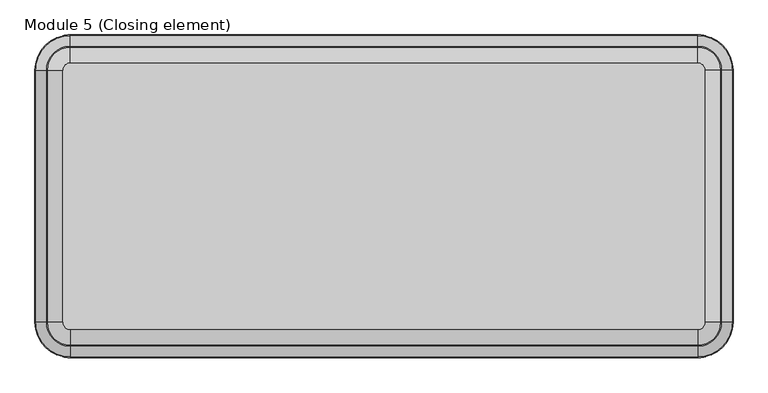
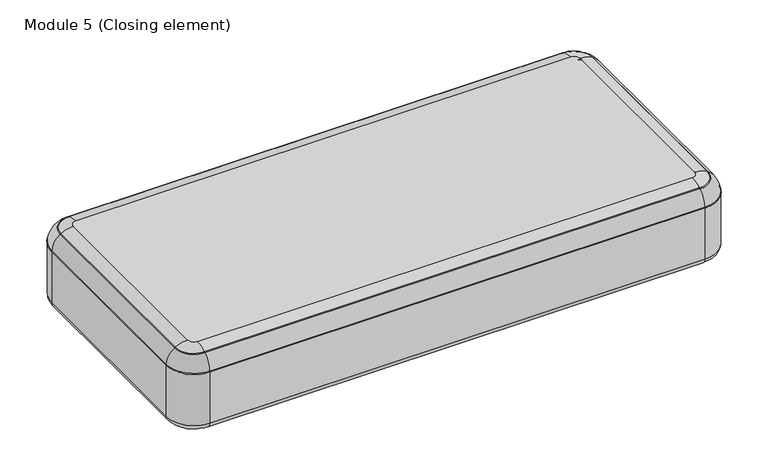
"""IFC4 building model written with IfcOpenShell, lengths in millimetres: furniture geometry, Module 5 (Closing element) : 1800х930х710мм."""

from ifc_helpers import new_model, si_unit, point, frame, origin, place, context, project, spatial, polyline, circle_curve, ellipse_curve, trimmed, source, transform, mapped, element, save
from ifc_brep_helpers import plane_surface, cylinder_surface, revolved_surface, advanced_brep


def module_5_closing_element_c7924a40(model_context):
    return source(origin(), model_context, "Body", "AdvancedBrep", [
        advanced_brep(
        [(90.0, -930.0, 190.0), (0.0, -840.0, 190.0), (20.0, -840.0, 170.0), (90.0, -910.0, 170.0), (90.0, -930.0, 369.0816596), (0.0, -840.0, 369.0816596), (90.0, -903.0932178, 417.1277728), (26.9067822, -840.0, 417.1277728), (0.0043962, -840.0, 370.2686252), (90.0, -929.9956038, 370.2686252), (90.0, -900.2270188, 418.8499589), (29.7729812, -840.0, 418.8499589), (90.0, -860.0212696, 430.0), (69.9787304, -840.0, 430.0), (1710.0, -910.0, 170.0), (1710.0, -930.0, 190.0), (1710.0, -930.0, 369.0816596), (1710.0, -929.9956038, 370.2686252), (1710.0, -903.0932178, 417.1277728), (1710.0, -900.2270188, 418.8499589), (1710.0, -860.0212696, 430.0), (1780.0, -840.0, 170.0), (1800.0, -840.0, 190.0), (1800.0, -840.0, 369.0816596), (1799.9956038, -840.0, 370.2686252), (1773.0932178, -840.0, 417.1277728), (1770.2270188, -840.0, 418.8499589), (1730.0212696, -840.0, 430.0), (1780.0, -190.0, 170.0), (1800.0, -190.0, 190.0), (1800.0, -190.0, 369.0816596), (1799.9956038, -190.0, 370.2686252), (1773.0932178, -190.0, 417.1277728), (1770.2270188, -190.0, 418.8499589), (1730.0212696, -190.0, 430.0), (1710.0, -120.0, 170.0), (1710.0, -100.0, 190.0), (1710.0, -100.0, 369.0816596), (1710.0, -100.0043962, 370.2686252), (1710.0, -126.9067822, 417.1277728), (1710.0, -129.7729812, 418.8499589), (1710.0, -169.9787304, 430.0), (90.0, -120.0, 170.0), (90.0, -100.0, 190.0), (90.0, -100.0, 369.0816596), (90.0, -100.0043962, 370.2686252), (90.0, -126.9067822, 417.1277728), (90.0, -129.7729812, 418.8499589), (90.0, -169.9787304, 430.0), (20.0, -190.0, 170.0), (0.0, -190.0, 190.0), (0.0, -190.0, 369.0816596), (0.0043962, -190.0, 370.2686252), (26.9067822, -190.0, 417.1277728), (29.7729812, -190.0, 418.8499589), (69.9787304, -190.0, 430.0)],
        [
            (0, 1, circle_curve(frame((90.0, -840.0, 190.0), z_axis=(0.0, 0.0, -1.0), x_axis=(-1.0, 0.0, 0.0)), 90.0)),
            (1, 2, circle_curve(frame((20.0, -840.0, 190.0), z_axis=(0.0, -1.0, 0.0), x_axis=(1.0, 0.0, 0.0)), 20.0)),
            (2, 3, circle_curve(frame((90.0, -840.0, 170.0), z_axis=(0.0, 0.0, 1.0), x_axis=(-1.0, 0.0, 0.0)), 70.0)),
            (3, 0, circle_curve(frame((90.0, -910.0, 190.0), z_axis=(-1.0, 0.0, 0.0), x_axis=(0.0, 1.0, 0.0)), 20.0)),
            (0, 4),
            (4, 5, circle_curve(frame((90.0, -840.0, 369.0816596), z_axis=(0.0, 0.0, -1.0), x_axis=(-1.0, 0.0, 0.0)), 90.0)),
            (5, 1),
            (6, 7, circle_curve(frame((90.0, -840.0, 417.1277728), z_axis=(0.0, 0.0, -1.0), x_axis=(-1.0, 0.0, 0.0)), 63.0932178)),
            (7, 8, circle_curve(frame((55.482257, -840.0, 369.5701963), z_axis=(0.0, -1.0, 0.0), x_axis=(1.0, 0.0, 0.0)), 55.482257)),
            (8, 9, circle_curve(frame((90.0, -840.0, 370.2686252), z_axis=(0.0, 0.0, 1.0), x_axis=(-1.0, 0.0, 0.0)), 89.9956038)),
            (9, 6, circle_curve(frame((90.0, -874.517743, 369.5701963), z_axis=(-1.0, 0.0, 0.0), x_axis=(0.0, 1.0, 0.0)), 55.482257)),
            (6, 10),
            (10, 11, circle_curve(frame((90.0, -840.0, 418.8499589), z_axis=(0.0, 0.0, -1.0), x_axis=(-1.0, 0.0, 0.0)), 60.2270188)),
            (11, 7),
            (10, 12, circle_curve(frame((90.0, -860.0212696, 351.9363554), z_axis=(-1.0, 0.0, 0.0), x_axis=(0.0, 1.0, 0.0)), 78.0636446)),
            (12, 13, circle_curve(frame((90.0, -840.0, 430.0), z_axis=(0.0, 0.0, -1.0), x_axis=(-1.0, 0.0, 0.0)), 20.0212696)),
            (13, 11, circle_curve(frame((69.9787304, -840.0, 351.9363554), z_axis=(0.0, -1.0, 0.0), x_axis=(1.0, 0.0, 0.0)), 78.0636446)),
            (3, 14),
            (14, 15, circle_curve(frame((1710.0, -910.0, 190.0), z_axis=(-1.0, 0.0, 0.0), x_axis=(0.0, 1.0, 0.0)), 20.0)),
            (15, 0),
            (15, 16),
            (16, 4),
            (9, 17),
            (17, 18, circle_curve(frame((1710.0, -874.517743, 369.5701963), z_axis=(-1.0, 0.0, 0.0), x_axis=(0.0, 1.0, 0.0)), 55.482257)),
            (18, 6),
            (18, 19),
            (19, 10),
            (19, 20, circle_curve(frame((1710.0, -860.0212696, 351.9363554), z_axis=(-1.0, 0.0, 0.0), x_axis=(0.0, 1.0, 0.0)), 78.0636446)),
            (20, 12),
            (14, 21, circle_curve(frame((1710.0, -840.0, 170.0), z_axis=(0.0, 0.0, 1.0), x_axis=(0.0, -1.0, 0.0)), 70.0)),
            (21, 22, circle_curve(frame((1780.0, -840.0, 190.0), z_axis=(0.0, -1.0, 0.0), x_axis=(-1.0, 0.0, 0.0)), 20.0)),
            (22, 15, circle_curve(frame((1710.0, -840.0, 190.0), z_axis=(0.0, 0.0, -1.0), x_axis=(0.0, -1.0, 0.0)), 90.0)),
            (22, 23),
            (23, 16, circle_curve(frame((1710.0, -840.0, 369.0816596), z_axis=(0.0, 0.0, -1.0), x_axis=(0.0, -1.0, 0.0)), 90.0)),
            (17, 24, circle_curve(frame((1710.0, -840.0, 370.2686252), z_axis=(0.0, 0.0, 1.0), x_axis=(0.0, -1.0, 0.0)), 89.9956038)),
            (24, 25, circle_curve(frame((1744.517743, -840.0, 369.5701963), z_axis=(0.0, -1.0, 0.0), x_axis=(-1.0, 0.0, 0.0)), 55.482257)),
            (25, 18, circle_curve(frame((1710.0, -840.0, 417.1277728), z_axis=(0.0, 0.0, -1.0), x_axis=(0.0, -1.0, 0.0)), 63.0932178)),
            (25, 26),
            (26, 19, circle_curve(frame((1710.0, -840.0, 418.8499589), z_axis=(0.0, 0.0, -1.0), x_axis=(0.0, -1.0, 0.0)), 60.2270188)),
            (26, 27, circle_curve(frame((1730.0212696, -840.0, 351.9363554), z_axis=(0.0, -1.0, 0.0), x_axis=(-1.0, 0.0, 0.0)), 78.0636446)),
            (27, 20, circle_curve(frame((1710.0, -840.0, 430.0), z_axis=(0.0, 0.0, -1.0), x_axis=(0.0, -1.0, 0.0)), 20.0212696)),
            (21, 28),
            (28, 29, circle_curve(frame((1780.0, -190.0, 190.0), z_axis=(0.0, -1.0, 0.0), x_axis=(-1.0, 0.0, 0.0)), 20.0)),
            (29, 22),
            (29, 30),
            (30, 23),
            (24, 31),
            (31, 32, circle_curve(frame((1744.517743, -190.0, 369.5701963), z_axis=(0.0, -1.0, 0.0), x_axis=(-1.0, 0.0, 0.0)), 55.482257)),
            (32, 25),
            (32, 33),
            (33, 26),
            (33, 34, circle_curve(frame((1730.0212696, -190.0, 351.9363554), z_axis=(0.0, -1.0, 0.0), x_axis=(-1.0, 0.0, 0.0)), 78.0636446)),
            (34, 27),
            (28, 35, circle_curve(frame((1710.0, -190.0, 170.0), z_axis=(0.0, 0.0, 1.0), x_axis=(1.0, 0.0, 0.0)), 70.0)),
            (35, 36, circle_curve(frame((1710.0, -120.0, 190.0), z_axis=(1.0, 0.0, 0.0), x_axis=(0.0, -1.0, 0.0)), 20.0)),
            (36, 29, circle_curve(frame((1710.0, -190.0, 190.0), z_axis=(0.0, 0.0, -1.0), x_axis=(1.0, 0.0, 0.0)), 90.0)),
            (36, 37),
            (37, 30, circle_curve(frame((1710.0, -190.0, 369.0816596), z_axis=(0.0, 0.0, -1.0), x_axis=(1.0, 0.0, 0.0)), 90.0)),
            (31, 38, circle_curve(frame((1710.0, -190.0, 370.2686252), z_axis=(0.0, 0.0, 1.0), x_axis=(1.0, 0.0, 0.0)), 89.9956038)),
            (38, 39, circle_curve(frame((1710.0, -155.482257, 369.5701963), z_axis=(1.0, 0.0, 0.0), x_axis=(0.0, -1.0, 0.0)), 55.482257)),
            (39, 32, circle_curve(frame((1710.0, -190.0, 417.1277728), z_axis=(0.0, 0.0, -1.0), x_axis=(1.0, 0.0, 0.0)), 63.0932178)),
            (39, 40),
            (40, 33, circle_curve(frame((1710.0, -190.0, 418.8499589), z_axis=(0.0, 0.0, -1.0), x_axis=(1.0, 0.0, 0.0)), 60.2270188)),
            (40, 41, circle_curve(frame((1710.0, -169.9787304, 351.9363554), z_axis=(1.0, 0.0, 0.0), x_axis=(0.0, -1.0, 0.0)), 78.0636446)),
            (41, 34, circle_curve(frame((1710.0, -190.0, 430.0), z_axis=(0.0, 0.0, -1.0), x_axis=(1.0, 0.0, 0.0)), 20.0212696)),
            (35, 42),
            (42, 43, circle_curve(frame((90.0, -120.0, 190.0), z_axis=(1.0, 0.0, 0.0), x_axis=(0.0, -1.0, 0.0)), 20.0)),
            (43, 36),
            (43, 44),
            (44, 37),
            (38, 45),
            (45, 46, circle_curve(frame((90.0, -155.482257, 369.5701963), z_axis=(1.0, 0.0, 0.0), x_axis=(0.0, -1.0, 0.0)), 55.482257)),
            (46, 39),
            (46, 47),
            (47, 40),
            (47, 48, circle_curve(frame((90.0, -169.9787304, 351.9363554), z_axis=(1.0, 0.0, 0.0), x_axis=(0.0, -1.0, 0.0)), 78.0636446)),
            (48, 41),
            (42, 49, circle_curve(frame((90.0, -190.0, 170.0), z_axis=(0.0, 0.0, 1.0), x_axis=(0.0, 1.0, 0.0)), 70.0)),
            (49, 50, circle_curve(frame((20.0, -190.0, 190.0), z_axis=(0.0, 1.0, 0.0), x_axis=(1.0, 0.0, 0.0)), 20.0)),
            (50, 43, circle_curve(frame((90.0, -190.0, 190.0), z_axis=(0.0, 0.0, -1.0), x_axis=(0.0, 1.0, 0.0)), 90.0)),
            (50, 51),
            (51, 44, circle_curve(frame((90.0, -190.0, 369.0816596), z_axis=(0.0, 0.0, -1.0), x_axis=(0.0, 1.0, 0.0)), 90.0)),
            (45, 52, circle_curve(frame((90.0, -190.0, 370.2686252), z_axis=(0.0, 0.0, 1.0), x_axis=(0.0, 1.0, 0.0)), 89.9956038)),
            (52, 53, circle_curve(frame((55.482257, -190.0, 369.5701963), z_axis=(0.0, 1.0, 0.0), x_axis=(1.0, 0.0, 0.0)), 55.482257)),
            (53, 46, circle_curve(frame((90.0, -190.0, 417.1277728), z_axis=(0.0, 0.0, -1.0), x_axis=(0.0, 1.0, 0.0)), 63.0932178)),
            (53, 54),
            (54, 47, circle_curve(frame((90.0, -190.0, 418.8499589), z_axis=(0.0, 0.0, -1.0), x_axis=(0.0, 1.0, 0.0)), 60.2270188)),
            (54, 55, circle_curve(frame((69.9787304, -190.0, 351.9363554), z_axis=(0.0, 1.0, 0.0), x_axis=(1.0, 0.0, 0.0)), 78.0636446)),
            (55, 48, circle_curve(frame((90.0, -190.0, 430.0), z_axis=(0.0, 0.0, -1.0), x_axis=(0.0, 1.0, 0.0)), 20.0212696)),
            (55, 13),
            (2, 49),
            (1, 50),
            (5, 51),
            (7, 53),
            (52, 8),
            (11, 54),
            (4, 9, circle_curve(frame((90.0, -930.8026401, 369.6781233), z_axis=(-1.0, 0.0, 0.0), x_axis=(0.0, 1.0, 0.0)), 1.0)),
            (8, 5, circle_curve(frame((-0.8026401, -840.0, 369.6781233), z_axis=(0.0, -1.0, 0.0), x_axis=(1.0, 0.0, 0.0)), 1.0)),
            (16, 17, circle_curve(frame((1710.0, -930.8026401, 369.6781233), z_axis=(-1.0, 0.0, 0.0), x_axis=(0.0, 1.0, 0.0)), 1.0)),
            (23, 24, circle_curve(frame((1800.8026401, -840.0, 369.6781233), z_axis=(0.0, -1.0, 0.0), x_axis=(-1.0, 0.0, 0.0)), 1.0)),
            (30, 31, circle_curve(frame((1800.8026401, -190.0, 369.6781233), z_axis=(0.0, -1.0, 0.0), x_axis=(-1.0, 0.0, 0.0)), 1.0)),
            (37, 38, circle_curve(frame((1710.0, -99.1973599, 369.6781233), z_axis=(1.0, 0.0, 0.0), x_axis=(0.0, -1.0, 0.0)), 1.0)),
            (44, 45, circle_curve(frame((90.0, -99.1973599, 369.6781233), z_axis=(1.0, 0.0, 0.0), x_axis=(0.0, -1.0, 0.0)), 1.0)),
            (51, 52, circle_curve(frame((-0.8026401, -190.0, 369.6781233), z_axis=(0.0, 1.0, 0.0), x_axis=(1.0, 0.0, 0.0)), 1.0)),
        ],
        [
            revolved_surface(trimmed(ellipse_curve(frame((20.0, -840.0, 190.0), z_axis=(0.0, 1.0, 0.0), x_axis=(1.0, 0.0, 0.0)), 20.0, 20.0), [point((20.0, -840.0, 170.0))], [point((0.0, -840.0, 190.0))], True, "CARTESIAN"), (90.0, -840.0, 430.0), (0.0, 0.0, 1.0)),
            cylinder_surface(frame((90.0, -840.0, 430.0), z_axis=(0.0, 0.0, 1.0), x_axis=(-1.0, 0.0, 0.0)), 90.0),
            revolved_surface(trimmed(ellipse_curve(frame((55.482257, -840.0, 369.5701963), z_axis=(0.0, 1.0, 0.0), x_axis=(1.0, 0.0, 0.0)), 55.482257, 55.482257), [point((0.0043962, -840.0, 370.2686252))], [point((26.9067822, -840.0, 417.1277728))], True, "CARTESIAN"), (90.0, -840.0, 430.0), (0.0, 0.0, 1.0)),
            revolved_surface(polyline([(26.9067822, -840.0, 417.1277728), (29.7729812, -840.0, 418.8499589)]), (90.0, -840.0, 430.0), (0.0, 0.0, 1.0)),
            revolved_surface(trimmed(ellipse_curve(frame((69.9787304, -840.0, 351.9363554), z_axis=(0.0, 1.0, 0.0), x_axis=(1.0, 0.0, 0.0)), 78.0636446, 78.0636446), [point((29.7729812, -840.0, 418.8499589))], [point((69.9787304, -840.0, 430.0))], True, "CARTESIAN"), (90.0, -840.0, 430.0), (0.0, 0.0, 1.0)),
            cylinder_surface(frame((90.0, -910.0, 190.0), z_axis=(-1.0, 0.0, 0.0), x_axis=(0.0, 1.0, 0.0)), 20.0),
            plane_surface(frame((90.0, -930.0, 190.0), z_axis=(0.0, -1.0, 0.0), x_axis=(1.0, 0.0, 0.0))),
            cylinder_surface(frame((90.0, -874.517743, 369.5701963), z_axis=(-1.0, 0.0, 0.0), x_axis=(0.0, 1.0, 0.0)), 55.482257),
            plane_surface(frame((90.0, -903.0932178, 417.1277728), z_axis=(0.0, -0.5150380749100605, 0.8571673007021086), x_axis=(1.0, 0.0, 0.0))),
            cylinder_surface(frame((90.0, -860.0212696, 351.9363554), z_axis=(-1.0, 0.0, 0.0), x_axis=(0.0, 1.0, 0.0)), 78.0636446),
            revolved_surface(trimmed(ellipse_curve(frame((1710.0, -910.0, 190.0), z_axis=(-1.0, 0.0, 0.0), x_axis=(0.0, 1.0, 0.0)), 20.0, 20.0), [point((1710.0, -910.0, 170.0))], [point((1710.0, -930.0, 190.0))], True, "CARTESIAN"), (1710.0, -840.0, 430.0), (0.0, 0.0, 1.0)),
            cylinder_surface(frame((1710.0, -840.0, 430.0), z_axis=(0.0, 0.0, 1.0), x_axis=(0.0, -1.0, 0.0)), 90.0),
            revolved_surface(trimmed(ellipse_curve(frame((1710.0, -874.517743, 369.5701963), z_axis=(-1.0, 0.0, 0.0), x_axis=(0.0, 1.0, 0.0)), 55.482257, 55.482257), [point((1710.0, -929.9956038, 370.2686252))], [point((1710.0, -903.0932178, 417.1277728))], True, "CARTESIAN"), (1710.0, -840.0, 430.0), (0.0, 0.0, 1.0)),
            revolved_surface(polyline([(1710.0, -903.0932178, 417.1277728), (1710.0, -900.2270188, 418.8499589)]), (1710.0, -840.0, 430.0), (0.0, 0.0, 1.0)),
            revolved_surface(trimmed(ellipse_curve(frame((1710.0, -860.0212696, 351.9363554), z_axis=(-1.0, 0.0, 0.0), x_axis=(0.0, 1.0, 0.0)), 78.0636446, 78.0636446), [point((1710.0, -900.2270188, 418.8499589))], [point((1710.0, -860.0212696, 430.0))], True, "CARTESIAN"), (1710.0, -840.0, 430.0), (0.0, 0.0, 1.0)),
            cylinder_surface(frame((1780.0, -840.0, 190.0), z_axis=(0.0, -1.0, 0.0), x_axis=(-1.0, 0.0, 0.0)), 20.0),
            plane_surface(frame((1800.0, -840.0, 190.0), z_axis=(1.0, 0.0, 0.0), x_axis=(0.0, 1.0, 0.0))),
            cylinder_surface(frame((1744.517743, -840.0, 369.5701963), z_axis=(0.0, -1.0, 0.0), x_axis=(-1.0, 0.0, 0.0)), 55.482257),
            plane_surface(frame((1773.0932178, -840.0, 417.1277728), z_axis=(0.5150380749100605, 0.0, 0.8571673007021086), x_axis=(0.0, 1.0, 0.0))),
            cylinder_surface(frame((1730.0212696, -840.0, 351.9363554), z_axis=(0.0, -1.0, 0.0), x_axis=(-1.0, 0.0, 0.0)), 78.0636446),
            revolved_surface(trimmed(ellipse_curve(frame((1780.0, -190.0, 190.0), z_axis=(0.0, -1.0, 0.0), x_axis=(-1.0, 0.0, 0.0)), 20.0, 20.0), [point((1780.0, -190.0, 170.0))], [point((1800.0, -190.0, 190.0))], True, "CARTESIAN"), (1710.0, -190.0, 430.0), (0.0, 0.0, 1.0)),
            cylinder_surface(frame((1710.0, -190.0, 430.0), z_axis=(0.0, 0.0, 1.0), x_axis=(1.0, 0.0, 0.0)), 90.0),
            revolved_surface(trimmed(ellipse_curve(frame((1744.517743, -190.0, 369.5701963), z_axis=(0.0, -1.0, 0.0), x_axis=(-1.0, 0.0, 0.0)), 55.482257, 55.482257), [point((1799.9956038, -190.0, 370.2686252))], [point((1773.0932178, -190.0, 417.1277728))], True, "CARTESIAN"), (1710.0, -190.0, 430.0), (0.0, 0.0, 1.0)),
            revolved_surface(polyline([(1773.0932178, -190.0, 417.1277728), (1770.2270188, -190.0, 418.8499589)]), (1710.0, -190.0, 430.0), (0.0, 0.0, 1.0)),
            revolved_surface(trimmed(ellipse_curve(frame((1730.0212696, -190.0, 351.9363554), z_axis=(0.0, -1.0, 0.0), x_axis=(-1.0, 0.0, 0.0)), 78.0636446, 78.0636446), [point((1770.2270188, -190.0, 418.8499589))], [point((1730.0212696, -190.0, 430.0))], True, "CARTESIAN"), (1710.0, -190.0, 430.0), (0.0, 0.0, 1.0)),
            cylinder_surface(frame((1710.0, -120.0, 190.0), z_axis=(1.0, 0.0, 0.0), x_axis=(0.0, -1.0, 0.0)), 20.0),
            plane_surface(frame((1710.0, -100.0, 190.0), z_axis=(0.0, 1.0, 0.0), x_axis=(-1.0, 0.0, 0.0))),
            cylinder_surface(frame((1710.0, -155.482257, 369.5701963), z_axis=(1.0, 0.0, 0.0), x_axis=(0.0, -1.0, 0.0)), 55.482257),
            plane_surface(frame((1710.0, -126.9067822, 417.1277728), z_axis=(0.0, 0.5150380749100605, 0.8571673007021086), x_axis=(-1.0, 0.0, 0.0))),
            cylinder_surface(frame((1710.0, -169.9787304, 351.9363554), z_axis=(1.0, 0.0, 0.0), x_axis=(0.0, -1.0, 0.0)), 78.0636446),
            revolved_surface(trimmed(ellipse_curve(frame((90.0, -120.0, 190.0), z_axis=(1.0, 0.0, 0.0), x_axis=(0.0, -1.0, 0.0)), 20.0, 20.0), [point((90.0, -120.0, 170.0))], [point((90.0, -100.0, 190.0))], True, "CARTESIAN"), (90.0, -190.0, 430.0), (0.0, 0.0, 1.0)),
            cylinder_surface(frame((90.0, -190.0, 430.0), z_axis=(0.0, 0.0, 1.0), x_axis=(0.0, 1.0, 0.0)), 90.0),
            revolved_surface(trimmed(ellipse_curve(frame((90.0, -155.482257, 369.5701963), z_axis=(1.0, 0.0, 0.0), x_axis=(0.0, -1.0, 0.0)), 55.482257, 55.482257), [point((90.0, -100.0043962, 370.2686252))], [point((90.0, -126.9067822, 417.1277728))], True, "CARTESIAN"), (90.0, -190.0, 430.0), (0.0, 0.0, 1.0)),
            revolved_surface(polyline([(90.0, -126.9067822, 417.1277728), (90.0, -129.7729812, 418.8499589)]), (90.0, -190.0, 430.0), (0.0, 0.0, 1.0)),
            revolved_surface(trimmed(ellipse_curve(frame((90.0, -169.9787304, 351.9363554), z_axis=(1.0, 0.0, 0.0), x_axis=(0.0, -1.0, 0.0)), 78.0636446, 78.0636446), [point((90.0, -129.7729812, 418.8499589))], [point((90.0, -169.9787304, 430.0))], True, "CARTESIAN"), (90.0, -190.0, 430.0), (0.0, 0.0, 1.0)),
            plane_surface(frame((69.9787304, -190.0, 430.0), z_axis=(0.0, 0.0, 1.0), x_axis=(0.0, -1.0, 0.0))),
            plane_surface(frame((80.0, -190.0, 170.0), z_axis=(0.0, 0.0, -1.0), x_axis=(0.0, -1.0, 0.0))),
            cylinder_surface(frame((20.0, -190.0, 190.0), z_axis=(0.0, 1.0, 0.0), x_axis=(1.0, 0.0, 0.0)), 20.0),
            plane_surface(frame((0.0, -190.0, 190.0), z_axis=(-1.0, 0.0, 0.0), x_axis=(0.0, -1.0, 0.0))),
            cylinder_surface(frame((55.482257, -190.0, 369.5701963), z_axis=(0.0, 1.0, 0.0), x_axis=(1.0, 0.0, 0.0)), 55.482257),
            plane_surface(frame((26.9067822, -190.0, 417.1277728), z_axis=(-0.5150380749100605, 0.0, 0.8571673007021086), x_axis=(0.0, -1.0, 0.0))),
            cylinder_surface(frame((69.9787304, -190.0, 351.9363554), z_axis=(0.0, 1.0, 0.0), x_axis=(1.0, 0.0, 0.0)), 78.0636446),
            revolved_surface(trimmed(ellipse_curve(frame((-0.8026401, -840.0, 369.6781233), z_axis=(0.0, 1.0, 0.0), x_axis=(1.0, 0.0, 0.0)), 1.0, 1.0), [point((0.0, -840.0, 369.0816596))], [point((0.0043962, -840.0, 370.2686252))], True, "CARTESIAN"), (90.0, -840.0, 430.0), (0.0, 0.0, 1.0)),
            cylinder_surface(frame((90.0, -930.8026401, 369.6781233), z_axis=(-1.0, 0.0, 0.0), x_axis=(0.0, 1.0, 0.0)), 1.0),
            revolved_surface(trimmed(ellipse_curve(frame((1710.0, -930.8026401, 369.6781233), z_axis=(-1.0, 0.0, 0.0), x_axis=(0.0, 1.0, 0.0)), 1.0, 1.0), [point((1710.0, -930.0, 369.0816596))], [point((1710.0, -929.9956038, 370.2686252))], True, "CARTESIAN"), (1710.0, -840.0, 430.0), (0.0, 0.0, 1.0)),
            cylinder_surface(frame((1800.8026401, -840.0, 369.6781233), z_axis=(0.0, -1.0, 0.0), x_axis=(-1.0, 0.0, 0.0)), 1.0),
            revolved_surface(trimmed(ellipse_curve(frame((1800.8026401, -190.0, 369.6781233), z_axis=(0.0, -1.0, 0.0), x_axis=(-1.0, 0.0, 0.0)), 1.0, 1.0), [point((1800.0, -190.0, 369.0816596))], [point((1799.9956038, -190.0, 370.2686252))], True, "CARTESIAN"), (1710.0, -190.0, 430.0), (0.0, 0.0, 1.0)),
            cylinder_surface(frame((1710.0, -99.1973599, 369.6781233), z_axis=(1.0, 0.0, 0.0), x_axis=(0.0, -1.0, 0.0)), 1.0),
            revolved_surface(trimmed(ellipse_curve(frame((90.0, -99.1973599, 369.6781233), z_axis=(1.0, 0.0, 0.0), x_axis=(0.0, -1.0, 0.0)), 1.0, 1.0), [point((90.0, -100.0, 369.0816596))], [point((90.0, -100.0043962, 370.2686252))], True, "CARTESIAN"), (90.0, -190.0, 430.0), (0.0, 0.0, 1.0)),
            cylinder_surface(frame((-0.8026401, -190.0, 369.6781233), z_axis=(0.0, 1.0, 0.0), x_axis=(1.0, 0.0, 0.0)), 1.0),
        ],
        [
            (0, [[1, 2, 3, 4]]),
            (1, [[-1, 5, 6, 7]]),
            (2, [[8, 9, 10, 11]]),
            (3, [[-8, 12, 13, 14]]),
            (4, [[-13, 15, 16, 17]]),
            (5, [[-4, 18, 19, 20]]),
            (6, [[-5, -20, 21, 22]]),
            (7, [[-11, 23, 24, 25]]),
            (8, [[-12, -25, 26, 27]]),
            (9, [[-15, -27, 28, 29]]),
            (10, [[-19, 30, 31, 32]]),
            (11, [[-21, -32, 33, 34]]),
            (12, [[-24, 35, 36, 37]]),
            (13, [[-26, -37, 38, 39]]),
            (14, [[-28, -39, 40, 41]]),
            (15, [[-31, 42, 43, 44]]),
            (16, [[-33, -44, 45, 46]]),
            (17, [[-36, 47, 48, 49]]),
            (18, [[-38, -49, 50, 51]]),
            (19, [[-40, -51, 52, 53]]),
            (20, [[-43, 54, 55, 56]]),
            (21, [[-45, -56, 57, 58]]),
            (22, [[-48, 59, 60, 61]]),
            (23, [[-50, -61, 62, 63]]),
            (24, [[-52, -63, 64, 65]]),
            (25, [[-55, 66, 67, 68]]),
            (26, [[-57, -68, 69, 70]]),
            (27, [[-60, 71, 72, 73]]),
            (28, [[-62, -73, 74, 75]]),
            (29, [[-64, -75, 76, 77]]),
            (30, [[-67, 78, 79, 80]]),
            (31, [[-69, -80, 81, 82]]),
            (32, [[-72, 83, 84, 85]]),
            (33, [[-74, -85, 86, 87]]),
            (34, [[-76, -87, 88, 89]]),
            (35, [[-16, -29, -41, -53, -65, -77, -89, 90]]),
            (36, [[-3, 91, -78, -66, -54, -42, -30, -18]]),
            (37, [[-2, 92, -79, -91]]),
            (38, [[-7, 93, -81, -92]]),
            (39, [[-9, 94, -84, 95]]),
            (40, [[-14, 96, -86, -94]]),
            (41, [[-17, -90, -88, -96]]),
            (42, [[-6, 97, -10, 98]]),
            (43, [[-22, 99, -23, -97]]),
            (44, [[-34, 100, -35, -99]]),
            (45, [[-46, 101, -47, -100]]),
            (46, [[-58, 102, -59, -101]]),
            (47, [[-70, 103, -71, -102]]),
            (48, [[-82, 104, -83, -103]]),
            (49, [[-93, -98, -95, -104]]),
        ],
    ),
    ])


if __name__ == "__main__":
    model = new_model("IFC4")
    model_context = context("Model", 3, world=origin())
    ifc_project = project(units=[si_unit("LENGTHUNIT", "METRE", prefix="MILLI")], contexts=[model_context])
    site = spatial("IfcSite", under=ifc_project)
    building = spatial("IfcBuilding", under=site)
    placement = place(None, origin())
    module_5_closing_element_shape = module_5_closing_element_c7924a40(model_context)
    element("IfcFurniture", 1, ObjectType="Module 5 (Closing element) : 1800х930х710мм", at=placement, inside=building, context=model_context, shape_type="MappedRepresentation", body=[
        mapped(module_5_closing_element_shape, transform((0.0, 0.0, 0.0), x_axis=(1.0, 0.0, 0.0), y_axis=(0.0, 1.0, 0.0), z_axis=(0.0, 0.0, 1.0))),
    ])
    save(model, "model.ifc")
